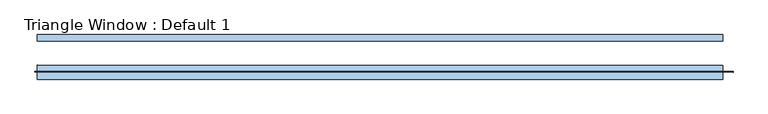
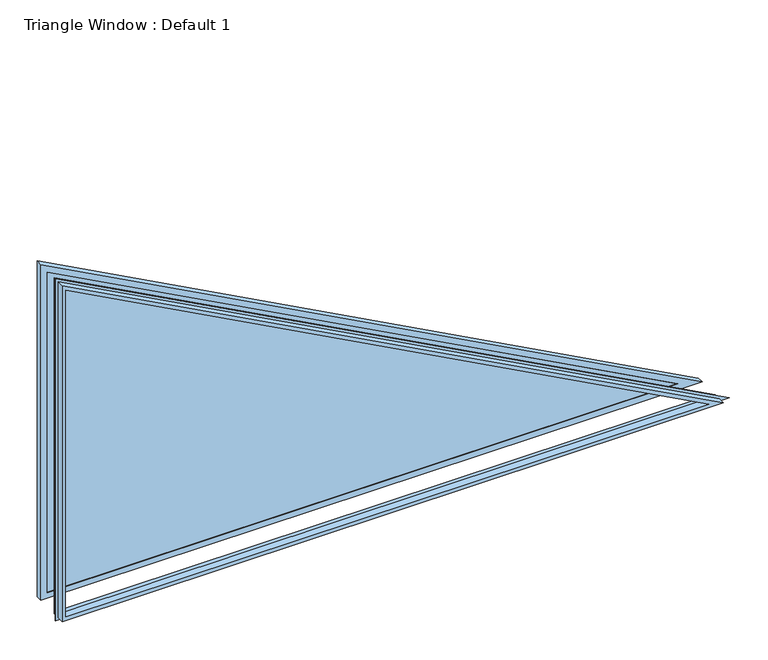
"""IFC4 building model written with IfcOpenShell, lengths in millimetres: window geometry, Triangle Window : Default 1."""

import ifcopenshell
import ifcopenshell.guid

model = None  # the IFC model being written
_history = None  # IfcOwnerHistory: only IFC2X3 demands one
_inside = {}  # id of a spatial element -> (the spatial element, [elements in it])
_under = {}  # id of a project, library or spatial element -> (it, [spatial elements below it])
_declared = {}  # id of a project -> (the project, [libraries it declares])
_typed = {}  # id of a type object -> (the type object, [elements of that type])
_made_of = {}  # id of a material, layer set ... -> (it, [elements and type objects made of it])


def new_model(schema):
    """Start an empty IFC model of exactly this schema.

    Asked for "IFC4X3", IfcOpenShell would pick the latest addendum, in which some entities
    have other attributes; the version numbers below select the first issue.
    IFC2X3 requires an IfcOwnerHistory on every rooted entity: one is made here for all.
    """
    global model, _history
    if schema == "IFC4X3":
        model = ifcopenshell.file(schema_version=(4, 3, 0, 0))
    else:
        model = ifcopenshell.file(schema=schema)
    _inside.clear()
    _under.clear()
    _declared.clear()
    _typed.clear()
    _made_of.clear()
    _history = None
    if model.schema == "IFC2X3":
        org = make("IfcOrganization", Name="unknown")
        user = make(
            "IfcPersonAndOrganization",
            ThePerson=make("IfcPerson", FamilyName="unknown"),
            TheOrganization=org,
        )
        app = make(
            "IfcApplication",
            ApplicationDeveloper=org,
            Version="unknown",
            ApplicationFullName="unknown",
            ApplicationIdentifier="unknown",
        )
        _history = make(
            "IfcOwnerHistory",
            OwningUser=user,
            OwningApplication=app,
            ChangeAction="ADDED",
            CreationDate=0,
        )
    return model


def make(cls, **values):
    """One entity of the class cls with the attributes given. An attribute that is None is left unset."""
    return model.create_entity(
        cls, **{name: value for name, value in values.items() if value is not None}
    )


def rooted(cls, **values):
    """An entity with a GlobalId (a new one), such as an element, a storey or a relation."""
    return make(cls, GlobalId=ifcopenshell.guid.new(), OwnerHistory=_history, **values)


def si_unit(unit_type, name, prefix=None):
    """IfcSIUnit, for example si_unit("LENGTHUNIT", "METRE", prefix="MILLI")."""
    return make("IfcSIUnit", UnitType=unit_type, Prefix=prefix, Name=name)


def assignment(units):
    """IfcUnitAssignment: the units of a project."""
    return None if units is None else make("IfcUnitAssignment", Units=units)


def point(xyz):
    """IfcCartesianPoint."""
    return None if xyz is None else make("IfcCartesianPoint", Coordinates=xyz)


def direction(xyz):
    """IfcDirection."""
    return None if xyz is None else make("IfcDirection", DirectionRatios=xyz)


def frame(location, z_axis=None, x_axis=None):
    """IfcAxis2Placement3D, a coordinate frame: its origin and axes. An axis left out is left unset."""
    return make(
        "IfcAxis2Placement3D",
        Location=point(location),
        Axis=direction(z_axis),
        RefDirection=direction(x_axis),
    )


def origin():
    """The frame at (0, 0, 0) with its axes left unset."""
    return frame((0.0, 0.0, 0.0))


def place(relative_to, where):
    """IfcLocalPlacement: puts the frame where relative to a parent placement (None: the world)."""
    return make(
        "IfcLocalPlacement", PlacementRelTo=relative_to, RelativePlacement=where
    )


def context(
    kind, dimensions, precision=None, world=None, true_north=None, identifier=None
):
    """IfcGeometricRepresentationContext, for example the 3D "Model" context."""
    return make(
        "IfcGeometricRepresentationContext",
        ContextIdentifier=identifier,
        ContextType=kind,
        CoordinateSpaceDimension=dimensions,
        Precision=precision,
        WorldCoordinateSystem=world,
        TrueNorth=true_north,
    )


def project(units=None, contexts=None):
    """IfcProject with its units and contexts."""
    return rooted(
        "IfcProject",
        Name="project",
        RepresentationContexts=contexts,
        UnitsInContext=assignment(units),
    )


def spatial(cls, under=None, at=None, **own):
    """A site, building, storey or space (cls), placed at a placement, below another one or the project."""
    s = rooted(cls, ObjectPlacement=at, **own)
    if under is not None:
        _under.setdefault(under.id(), (under, []))[1].append(s)
    return s


def polyline(points):
    """IfcPolyline through the points."""
    return make("IfcPolyline", Points=[point(p) for p in points])


def outline(outer, holes=None, kind="AREA"):
    """IfcArbitraryClosedProfileDef: a profile drawn as a closed curve; with holes, ...WithVoids."""
    if holes is None:
        return make("IfcArbitraryClosedProfileDef", ProfileType=kind, OuterCurve=outer)
    return make(
        "IfcArbitraryProfileDefWithVoids",
        ProfileType=kind,
        OuterCurve=outer,
        InnerCurves=holes,
    )


def extrude(swept, where, along, depth):
    """IfcExtrudedAreaSolid: the profile swept, set in the frame where, extruded along a direction by depth."""
    return make(
        "IfcExtrudedAreaSolid",
        SweptArea=swept,
        Position=where,
        ExtrudedDirection=direction(along),
        Depth=depth,
    )


def faces_of(points, faces, orient=None, outer=None):
    """IfcFace entities. A face is a list of loops; a loop is a list of indices into points, from 0.

    orient and outer hold one flag for each loop. By default every Orientation is true, the
    first loop of a face is its IfcFaceOuterBound and the others are IfcFaceBound.
    """
    made = []
    for i, loops in enumerate(faces):
        bounds = []
        for j, loop in enumerate(loops):
            is_outer = j == 0 if outer is None else outer[i][j]
            bounds.append(
                make(
                    "IfcFaceOuterBound" if is_outer else "IfcFaceBound",
                    Bound=make("IfcPolyLoop", Polygon=[points[k] for k in loop]),
                    Orientation=True if orient is None else orient[i][j],
                )
            )
        made.append(make("IfcFace", Bounds=bounds))
    return made


def faceted_brep(points, faces, orient=None, outer=None, voids=None):
    """IfcFacetedBrep: a solid bounded by flat faces; with voids (closed shells), ...WithVoids."""
    shared = [point(p) for p in points]
    hull = make("IfcClosedShell", CfsFaces=faces_of(shared, faces, orient, outer))
    if voids is None:
        return make("IfcFacetedBrep", Outer=hull)
    return make(
        "IfcFacetedBrepWithVoids",
        Outer=hull,
        Voids=[
            make(cls, CfsFaces=faces_of(shared, fs, o, b)) for cls, fs, o, b in voids
        ],
    )


def shape(context_of_items, identifier, shape_type, items):
    """IfcShapeRepresentation: the items that make up one representation, for example the "Body"."""
    return make(
        "IfcShapeRepresentation",
        ContextOfItems=context_of_items,
        RepresentationIdentifier=identifier,
        RepresentationType=shape_type,
        Items=items,
    )


def source(mapping_origin, context_of_items, identifier, shape_type, items):
    """IfcRepresentationMap: a shape defined once, which mapped items show again and again."""
    return make(
        "IfcRepresentationMap",
        MappingOrigin=mapping_origin,
        MappedRepresentation=shape(context_of_items, identifier, shape_type, items),
    )


def transform(
    local_origin,
    x_axis=None,
    y_axis=None,
    z_axis=None,
    scale=None,
    scale2=None,
    scale3=None,
    uniform=True,
):
    """IfcCartesianTransformationOperator3D, or its non-uniform kind. x_axis, y_axis, z_axis: its Axis1, 2, 3."""
    if uniform:
        return make(
            "IfcCartesianTransformationOperator3D",
            Axis1=direction(x_axis),
            Axis2=direction(y_axis),
            LocalOrigin=point(local_origin),
            Scale=scale,
            Axis3=direction(z_axis),
        )
    return make(
        "IfcCartesianTransformationOperator3DnonUniform",
        Axis1=direction(x_axis),
        Axis2=direction(y_axis),
        LocalOrigin=point(local_origin),
        Scale=scale,
        Axis3=direction(z_axis),
        Scale2=scale2,
        Scale3=scale3,
    )


def mapped(mapping_source, mapping_target):
    """IfcMappedItem: shows the shape of a source again, moved by a transform."""
    return make(
        "IfcMappedItem", MappingSource=mapping_source, MappingTarget=mapping_target
    )


def made_of(thing, what):
    """Note that an element or type object is made of a material, layer set ...; save() writes the relation."""
    if what is not None:
        _made_of.setdefault(what.id(), (what, []))[1].append(thing)
    return thing


def element(
    cls,
    number,
    at=None,
    inside=None,
    cuts=None,
    type_object=None,
    material=None,
    context=None,
    identifier="Body",
    shape_type=None,
    held_by="IfcProductDefinitionShape",
    body=None,
    shapes=None,
    **own,
):
    """One element of the class cls, such as IfcWall. Its Tag is "e" and its number.

    at: its placement. inside: the storey or other place that contains it. cuts: it is an
    opening in that element (IfcRelVoidsElement). A single representation is given by context,
    identifier, shape_type and body (its items); several are given by shapes. held_by: the class
    of the entity that holds the representations. save() writes the other relations.
    """
    e = rooted(cls, Tag="e%d" % number, ObjectPlacement=at, **own)
    if body is not None:
        shapes = [shape(context, identifier, shape_type, body)]
    if shapes is not None:
        e.Representation = make(held_by, Representations=shapes)
    if inside is not None:
        _inside.setdefault(inside.id(), (inside, []))[1].append(e)
    if cuts is not None:
        rooted(
            "IfcRelVoidsElement", RelatingBuildingElement=cuts, RelatedOpeningElement=e
        )
    if type_object is not None:
        _typed.setdefault(type_object.id(), (type_object, []))[1].append(e)
    return made_of(e, material)


def aggregate(whole, parts):
    """IfcRelAggregates: a whole, such as a stair, and the parts it consists of."""
    return rooted("IfcRelAggregates", RelatingObject=whole, RelatedObjects=parts)


def save(model, path):
    """Write the relations noted so far, then the file.

    IfcRelAggregates (storeys below a building ...), IfcRelContainedInSpatialStructure (elements
    in a storey), IfcRelDefinesByType, IfcRelAssociatesMaterial and IfcRelDeclares: one each for
    every whole, place, type object, material and project.
    """
    for whole, parts in _under.values():
        aggregate(whole, parts)
    for where, things in _inside.values():
        rooted(
            "IfcRelContainedInSpatialStructure",
            RelatedElements=things,
            RelatingStructure=where,
        )
    for kind, things in _typed.values():
        rooted("IfcRelDefinesByType", RelatedObjects=things, RelatingType=kind)
    for what, things in _made_of.values():
        rooted("IfcRelAssociatesMaterial", RelatedObjects=things, RelatingMaterial=what)
    for by, libraries in _declared.values():
        rooted("IfcRelDeclares", RelatingContext=by, RelatedDefinitions=libraries)
    model.write(path)


def triangle_window_default_1_4486b977(model_context):
    return source(origin(), model_context, "Body", "SolidModel", [
        extrude(outline(polyline([(2690.1172961, -1822.45), (946.15, -1822.45), (946.15, 1423.230975), (2690.1172961, -1822.45)])), frame((0.0, 78.58125, 0.0), z_axis=(0.0, 1.0, 0.0), x_axis=(0.0, 0.0, 1.0)), (0.0, 0.0, 1.0), 3.175),
        extrude(outline(polyline([(2690.1172961, -1822.45), (946.15, -1822.45), (946.15, 1423.230975), (2690.1172961, -1822.45)])), frame((0.0, 56.35625, 0.0), z_axis=(0.0, 1.0, 0.0), x_axis=(0.0, 0.0, 1.0)), (0.0, 0.0, 1.0), 3.175),
        extrude(outline(polyline([(914.4, 1549.4), (2743.220249, -1854.2), (914.4, -1854.2), (914.4, 1549.4)]), holes=[polyline([(946.15, 1423.230975), (946.15, -1822.45), (2690.1172961, -1822.45), (946.15, 1423.230975)])]), frame((0.0, 53.18125, 0.0), z_axis=(0.0, 1.0, 0.0), x_axis=(0.0, 0.0, 1.0)), (0.0, 0.0, 1.0), 31.75),
        faceted_brep([(-1854.2, -136.525, 914.4), (-1854.2, -101.6, 914.4), (1549.4, -101.6, 914.4), (1549.4, -136.525, 914.4), (-1854.2, -101.6, 2743.220249), (-1854.2, -136.525, 2743.220249), (-1866.9, -101.6, 2764.4614302), (-1866.9, -101.6, 901.7), (1599.86761, -101.6, 901.7), (-1835.15, -136.525, 2711.3584773), (1473.698585, -136.525, 933.45), (-1835.15, -136.525, 933.45), (1473.698585, -98.425, 933.45), (-1835.15, -98.425, 2711.3584773), (-1835.15, -98.425, 933.45), (1510.4999151, -66.675, 924.1890722), (-1844.4109278, -66.675, 2726.8476934), (-1844.4109278, -66.675, 924.1890722), (-1854.2, -66.675, 2743.220249), (1549.4, -66.675, 914.4), (-1854.2, -66.675, 914.4), (1549.4, -98.425, 914.4), (-1854.2, -98.425, 2743.220249), (-1854.2, -98.425, 914.4), (-1866.9, -98.425, 2764.4614302), (1599.86761, -98.425, 901.7), (-1866.9, -98.425, 901.7)], [[[0, 1, 2, 3]], [[3, 2, 4, 5]], [[6, 7, 8], [4, 2, 1]], [[5, 0, 3], [9, 10, 11]], [[12, 10, 9, 13]], [[14, 11, 10, 12]], [[13, 9, 11, 14]], [[5, 4, 1, 0]], [[15, 12, 13, 16]], [[17, 14, 12, 15]], [[18, 19, 20], [16, 17, 15]], [[21, 19, 18, 22]], [[23, 20, 19, 21]], [[22, 18, 20, 23]], [[16, 13, 14, 17]], [[24, 25, 26], [22, 23, 21]], [[8, 25, 24, 6]], [[7, 26, 25, 8]], [[6, 24, 26, 7]]]),
    ])


if __name__ == "__main__":
    model = new_model("IFC4")
    model_context = context("Model", 3, world=origin())
    ifc_project = project(units=[si_unit("LENGTHUNIT", "METRE", prefix="MILLI")], contexts=[model_context])
    site = spatial("IfcSite", under=ifc_project)
    building = spatial("IfcBuilding", under=site)
    placement = place(None, origin())
    triangle_window_default_1_shape = triangle_window_default_1_4486b977(model_context)
    element("IfcWindow", 1, ObjectType="Triangle Window : Default 1", at=placement, inside=building, context=model_context, shape_type="MappedRepresentation", body=[
        mapped(triangle_window_default_1_shape, transform((0.0, 0.0, 0.0), x_axis=(1.0, 0.0, 0.0), y_axis=(0.0, 1.0, 0.0), z_axis=(0.0, 0.0, 1.0))),
    ])
    save(model, "model.ifc")
